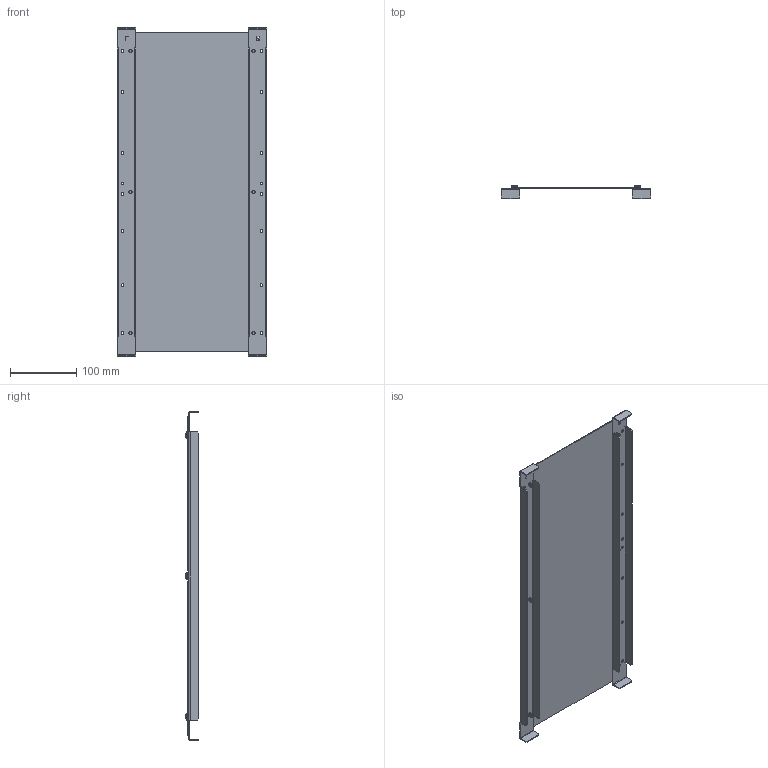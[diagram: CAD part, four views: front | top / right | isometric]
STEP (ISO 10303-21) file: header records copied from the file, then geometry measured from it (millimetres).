
FILE_DESCRIPTION (( 'STEP AP203' ), '1' );
FILE_NAME ('R5FCGD6.STEP', '2019-03-22T06:23:57', ( '' ), ( '' ), 'SwSTEP 2.0', 'SolidWorks 2017', '' );
FILE_SCHEMA (( 'CONFIG_CONTROL_DESIGN' ));
Length unit declared in the file: millimetre
Products named in the file (5): RB.1199.00.00.0_-02 (600); RB.1198.00.00.0_-02 (600); RB.1198.00.00.0_-04 (600 mirror); M5x8-DIN7500C_thread; R5FCGD6
Assembly tree (9 placements, depth 2):
  R5FCGD6
    RB.1199.00.00.0_-02 (600)
    RB.1198.00.00.0_-02 (600)
    RB.1198.00.00.0_-04 (600 mirror)
    M5x8-DIN7500C_thread  x6
Bounding box: 226 x 20.06 x 496 mm (x, y, z)
Volume: 220327.2 mm3; surface area: 299786 mm2
Topology: 9 solids, 9 shells, 662 faces, 1676 edges, 1026 vertices
Faces by surface type: cone 216, plane 205, cylinder 186, torus 24, bspline 19, sphere 12
Entity records: 10327 total; most frequent: CARTESIAN_POINT 2064, DIRECTION 1610, ORIENTED_EDGE 1568, EDGE_CURVE 784, AXIS2_PLACEMENT_3D 545, VECTOR 520, LINE 520, VERTEX_POINT 491
